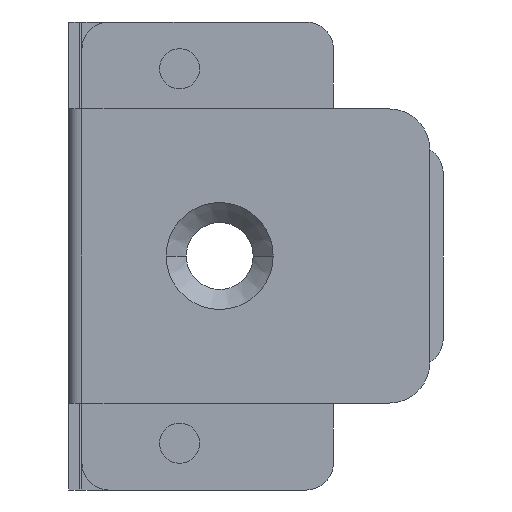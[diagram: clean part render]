
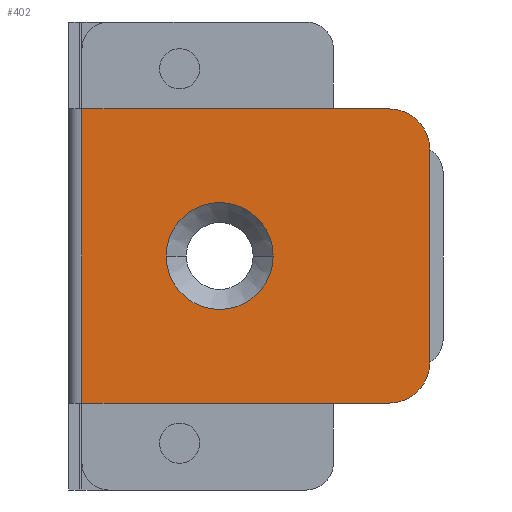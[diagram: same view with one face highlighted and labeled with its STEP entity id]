
A CAD part, left-side view. The second image highlights one B-rep face of the part: STEP entity #402.
In plain terms, the highlighted planar face has unit normal (-1, 0, 0).
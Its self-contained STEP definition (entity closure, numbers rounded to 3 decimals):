
#134 = EDGE_CURVE ( 'NONE', #5966, #3443, #7945, .T. ) ;
#328 = CARTESIAN_POINT ( 'NONE',  ( -0.8, -12.7, -11. ) ) ;
#402 = ADVANCED_FACE ( 'NONE', ( #7473, #3990 ), #1855, .T. ) ;
#514 = AXIS2_PLACEMENT_3D ( 'NONE', #8179, #4695, #4040 ) ;
#640 = CARTESIAN_POINT ( 'NONE',  ( -0.8, -12.7, 8. ) ) ;
#704 = VERTEX_POINT ( 'NONE', #2151 ) ;
#774 = EDGE_CURVE ( 'NONE', #704, #1745, #3154, .T. ) ;
#977 = CIRCLE ( 'NONE', #2124, 3. ) ;
#994 = CARTESIAN_POINT ( 'NONE',  ( -0.8, -12.7, 11. ) ) ;
#1114 = EDGE_CURVE ( 'NONE', #1257, #3443, #5378, .T. ) ;
#1257 = VERTEX_POINT ( 'NONE', #2848 ) ;
#1342 = DIRECTION ( 'NONE',  ( 0., 0., 1. ) ) ;
#1604 = LINE ( 'NONE', #6467, #1789 ) ;
#1745 = VERTEX_POINT ( 'NONE', #994 ) ;
#1760 = VERTEX_POINT ( 'NONE', #8670 ) ;
#1789 = VECTOR ( 'NONE', #5065, 1000. ) ;
#1842 = EDGE_CURVE ( 'NONE', #4497, #1853, #2746, .T. ) ;
#1853 = VERTEX_POINT ( 'NONE', #7211 ) ;
#1855 = PLANE ( 'NONE',  #4909 ) ;
#2042 = ORIENTED_EDGE ( 'NONE', *, *, #1114, .F. ) ;
#2124 = AXIS2_PLACEMENT_3D ( 'NONE', #640, #8928, #1342 ) ;
#2151 = CARTESIAN_POINT ( 'NONE',  ( -0.8, 10.3, 11. ) ) ;
#2161 = ORIENTED_EDGE ( 'NONE', *, *, #5694, .F. ) ;
#2521 = DIRECTION ( 'NONE',  ( 0., 0., -1. ) ) ;
#2617 = ORIENTED_EDGE ( 'NONE', *, *, #3975, .F. ) ;
#2627 = DIRECTION ( 'NONE',  ( -1., 0., 0. ) ) ;
#2746 = CIRCLE ( 'NONE', #7816, 4. ) ;
#2848 = CARTESIAN_POINT ( 'NONE',  ( -0.8, -15.7, 8. ) ) ;
#2944 = DIRECTION ( 'NONE',  ( -1., 0., 0. ) ) ;
#3154 = LINE ( 'NONE', #5467, #6354 ) ;
#3165 = CARTESIAN_POINT ( 'NONE',  ( -0.8, -15.7, 17.5 ) ) ;
#3341 = EDGE_LOOP ( 'NONE', ( #2042, #5884, #8387, #3905, #2617, #4659 ) ) ;
#3443 = VERTEX_POINT ( 'NONE', #4220 ) ;
#3715 = DIRECTION ( 'NONE',  ( 0., 0., 1. ) ) ;
#3905 = ORIENTED_EDGE ( 'NONE', *, *, #6139, .T. ) ;
#3975 = EDGE_CURVE ( 'NONE', #5966, #1760, #8752, .T. ) ;
#3990 = FACE_BOUND ( 'NONE', #8324, .T. ) ;
#4040 = DIRECTION ( 'NONE',  ( 0., 0., 1. ) ) ;
#4220 = CARTESIAN_POINT ( 'NONE',  ( -0.8, -15.7, -8. ) ) ;
#4360 = DIRECTION ( 'NONE',  ( -1., 0., 0. ) ) ;
#4497 = VERTEX_POINT ( 'NONE', #6291 ) ;
#4659 = ORIENTED_EDGE ( 'NONE', *, *, #134, .T. ) ;
#4695 = DIRECTION ( 'NONE',  ( -1., 0., 0. ) ) ;
#4909 = AXIS2_PLACEMENT_3D ( 'NONE', #3165, #2627, #5936 ) ;
#4917 = DIRECTION ( 'NONE',  ( 0., -1., 0. ) ) ;
#5065 = DIRECTION ( 'NONE',  ( 0., 0., -1. ) ) ;
#5133 = DIRECTION ( 'NONE',  ( 0., 0., 1. ) ) ;
#5191 = CARTESIAN_POINT ( 'NONE',  ( -0.8, -15.7, 17.5 ) ) ;
#5378 = LINE ( 'NONE', #5191, #5640 ) ;
#5467 = CARTESIAN_POINT ( 'NONE',  ( -0.8, 11.3, 11. ) ) ;
#5640 = VECTOR ( 'NONE', #2521, 1000. ) ;
#5694 = EDGE_CURVE ( 'NONE', #1853, #4497, #6861, .T. ) ;
#5884 = ORIENTED_EDGE ( 'NONE', *, *, #8742, .T. ) ;
#5901 = CARTESIAN_POINT ( 'NONE',  ( -0.8, -12.7, -8. ) ) ;
#5936 = DIRECTION ( 'NONE',  ( 0., 0., 1. ) ) ;
#5937 = DIRECTION ( 'NONE',  ( 0., 1., 0. ) ) ;
#5966 = VERTEX_POINT ( 'NONE', #328 ) ;
#6139 = EDGE_CURVE ( 'NONE', #704, #1760, #1604, .T. ) ;
#6291 = CARTESIAN_POINT ( 'NONE',  ( -0.8, 0., 4. ) ) ;
#6343 = AXIS2_PLACEMENT_3D ( 'NONE', #5901, #2944, #5133 ) ;
#6354 = VECTOR ( 'NONE', #4917, 1000. ) ;
#6467 = CARTESIAN_POINT ( 'NONE',  ( -0.8, 10.3, 17.5 ) ) ;
#6861 = CIRCLE ( 'NONE', #514, 4. ) ;
#7211 = CARTESIAN_POINT ( 'NONE',  ( -0.8, 0., -4. ) ) ;
#7254 = CARTESIAN_POINT ( 'NONE',  ( -0.8, 11.3, -11. ) ) ;
#7307 = CARTESIAN_POINT ( 'NONE',  ( -0.8, 0., 0. ) ) ;
#7422 = VECTOR ( 'NONE', #5937, 1000. ) ;
#7473 = FACE_OUTER_BOUND ( 'NONE', #3341, .T. ) ;
#7816 = AXIS2_PLACEMENT_3D ( 'NONE', #7307, #4360, #3715 ) ;
#7840 = ORIENTED_EDGE ( 'NONE', *, *, #1842, .F. ) ;
#7945 = CIRCLE ( 'NONE', #6343, 3. ) ;
#8179 = CARTESIAN_POINT ( 'NONE',  ( -0.8, 0., 0. ) ) ;
#8324 = EDGE_LOOP ( 'NONE', ( #7840, #2161 ) ) ;
#8387 = ORIENTED_EDGE ( 'NONE', *, *, #774, .F. ) ;
#8670 = CARTESIAN_POINT ( 'NONE',  ( -0.8, 10.3, -11. ) ) ;
#8742 = EDGE_CURVE ( 'NONE', #1257, #1745, #977, .T. ) ;
#8752 = LINE ( 'NONE', #7254, #7422 ) ;
#8928 = DIRECTION ( 'NONE',  ( -1., 0., 0. ) ) ;
